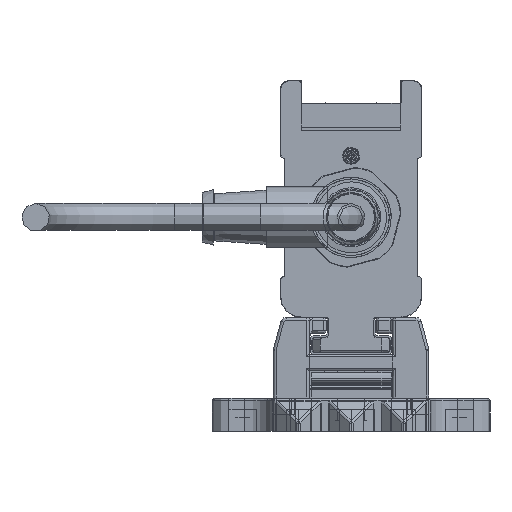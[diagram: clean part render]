
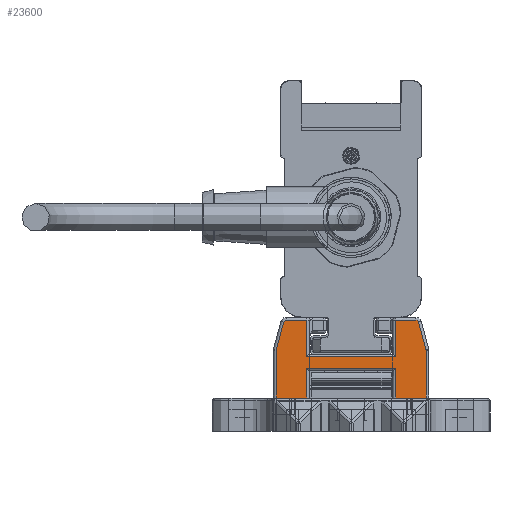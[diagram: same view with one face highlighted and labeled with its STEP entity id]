
A CAD part, left-side view. The second image highlights one B-rep face of the part: STEP entity #23600.
In plain terms, the highlighted planar face has unit normal (-1, 0, 0).
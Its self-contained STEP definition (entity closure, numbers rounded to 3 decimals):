
#23600=ADVANCED_FACE('', (#23610), #23620, .T.);
#189050=AXIS2_PLACEMENT_3D('Ax2Pl3d', #189060, #189070, #189080);
#189290=AXIS2_PLACEMENT_3D('Ax2Pl3d', #189300, #189310, #189320);
#194170=AXIS2_PLACEMENT_3D('Ax2Pl3d', #194180, #194190, #194200);
#199250=AXIS2_PLACEMENT_3D('Ax2Pl3d', #199260, #199270, #199280);
#208930=AXIS2_PLACEMENT_3D('Ax2Pl3d', #208940, #208950, #208960);
#844600=CARTESIAN_POINT('', (-747.669,-6086.345,
331.37));
#189060=CARTESIAN_POINT('HicPkt', (-747.669,-6085.379,
331.111));
#844610=CARTESIAN_POINT('', (-747.669,-6086.379,331.111)
);
#844620=CARTESIAN_POINT('', (-747.669,-6085.037,
336.255));
#844640=CARTESIAN_POINT('', (-747.669,-6085.037,
336.255));
#844670=CARTESIAN_POINT('', (-747.669,-6084.554,
336.625));
#189300=CARTESIAN_POINT('HicPkt', (-747.669,-6084.554,
336.125));
#844890=CARTESIAN_POINT('', (-747.669,-6086.379,322.625)
);
#844900=CARTESIAN_POINT('', (-747.669,-6080.881,322.625)
);
#844910=CARTESIAN_POINT('', (-747.669,-6080.881,322.625)
);
#844990=CARTESIAN_POINT('', (-747.669,-6064.881,322.625)
);
#845000=CARTESIAN_POINT('', (-747.669,-6059.383,322.625)
);
#845010=CARTESIAN_POINT('', (-747.669,-6059.383,322.625)
);
#194180=CARTESIAN_POINT('HicPkt', (-747.669,-6061.209,
336.125));
#847480=CARTESIAN_POINT('', (-747.669,-6060.726,
336.255));
#847490=CARTESIAN_POINT('', (-747.669,-6061.209,
336.625));
#847500=CARTESIAN_POINT('', (-747.669,-6080.881,
330.025));
#847510=CARTESIAN_POINT('', (-747.669,-6064.881,
330.025));
#847520=CARTESIAN_POINT('', (-747.669,-6080.881,
330.025));
#847680=CARTESIAN_POINT('', (-747.669,-6080.881,
328.005));
#847690=CARTESIAN_POINT('', (-747.669,-6064.881,
328.005));
#847700=CARTESIAN_POINT('', (-747.669,-6064.881,
328.005));
#847710=CARTESIAN_POINT('', (-747.669,-6080.881,
328.005));
#847730=CARTESIAN_POINT('', (-747.669,-6064.881,322.625)
);
#847740=CARTESIAN_POINT('', (-747.669,-6064.881,
330.025));
#847750=CARTESIAN_POINT('', (-747.669,-6064.881,
336.625));
#848600=CARTESIAN_POINT('', (-747.669,-6064.881,
336.625));
#848610=CARTESIAN_POINT('', (-747.669,-6060.726,
336.255));
#848620=CARTESIAN_POINT('', (-747.669,-6059.417,
331.37));
#848810=CARTESIAN_POINT('', (-747.669,-6059.383,331.111)
);
#848820=CARTESIAN_POINT('', (-747.669,-6059.383,331.111)
);
#199260=CARTESIAN_POINT('HicPkt', (-747.669,-6060.383,
331.111));
#849630=CARTESIAN_POINT('', (-747.669,-6086.379,331.111)
);
#208940=CARTESIAN_POINT('HicPkt', (-747.669,-6084.554,
336.625));
#851430=CARTESIAN_POINT('', (-747.669,-6080.881,
336.625));
#851440=CARTESIAN_POINT('', (-747.669,-6080.881,
336.625));
#851450=CARTESIAN_POINT('', (-747.669,-6080.881,
336.625));
#981330=CIRCLE('Circle', #189050, 1.);
#981370=CIRCLE('Circle', #189290, 0.5);
#981950=CIRCLE('Circle', #194170, 0.5);
#982480=CIRCLE('Circle', #199250, 1.);
#189070=DIRECTION('Axis', (-1.,0.,
0.));
#189080=DIRECTION('RefDirection', (0.,
0.,-1.));
#1367870=DIRECTION('', (0.,0.259,
0.966));
#189310=DIRECTION('Axis', (-1.,0.,
0.));
#189320=DIRECTION('RefDirection', (0.,
0.,-1.));
#1367980=DIRECTION('', (0.,1.,0.));
#1368020=DIRECTION('', (0.,1.,0.));
#194190=DIRECTION('Axis', (1.,0.,
0.));
#194200=DIRECTION('RefDirection', (0.,
0.,-1.));
#1369210=DIRECTION('', (0.,-1.,0.));
#1369310=DIRECTION('', (0.,1.,0.));
#1369320=DIRECTION('', (0.,0.,1.));
#1369340=DIRECTION('', (0.,0.,-1.));
#1369350=DIRECTION('', (0.,0.,-1.));
#1369780=DIRECTION('', (0.,-1.,0.))
;
#1369790=DIRECTION('', (0.,-0.259,0.966));
#1369880=DIRECTION('', (0.,0.,1.));
#199270=DIRECTION('Axis', (1.,0.,
0.));
#199280=DIRECTION('RefDirection', (0.,
0.,-1.));
#1370250=DIRECTION('', (0.,0.,1.));
#208950=DIRECTION('Axis', (-1.,0.,
0.));
#208960=DIRECTION('RefDirection', (0.,
0.,-1.));
#1371090=DIRECTION('', (0.,1.,0.));
#1371100=DIRECTION('', (0.,0.,1.));
#1456860=EDGE_CURVE('', #1456870, #1456850, #981330, .T.);
#1456920=EDGE_CURVE('', #1456850, #1456900, #1456930, .T.);
#1456990=EDGE_CURVE('', #1456900, #1456980, #981370, .T.);
#1457440=EDGE_CURVE('', #1457430, #1457450, #1457460, .T.);
#1457600=EDGE_CURVE('', #1457590, #1457610, #1457620, .T.);
#1461960=EDGE_CURVE('', #1461970, #1461980, #981950, .T.);
#1462010=EDGE_CURVE('', #1462020, #1462030, #1462040, .T.);
#1462380=EDGE_CURVE('', #1462360, #1462390, #1462400, .T.);
#1462430=EDGE_CURVE('', #1457450, #1462360, #1462440, .T.);
#1462470=EDGE_CURVE('', #1462390, #1457590, #1462480, .T.);
#1462490=EDGE_CURVE('', #1462500, #1462020, #1462510, .T.);
#1464330=EDGE_CURVE('', #1461980, #1462500, #1464340, .T.);
#1464400=EDGE_CURVE('', #1464410, #1461970, #1464420, .T.);
#1464840=EDGE_CURVE('', #1457610, #1464850, #1464860, .T.);
#1464880=EDGE_CURVE('', #1464850, #1464410, #982480, .T.);
#1466590=EDGE_CURVE('', #1457430, #1456870, #1466600, .T.);
#1470400=EDGE_CURVE('', #1456980, #1470410, #1470420, .T.);
#1470430=EDGE_CURVE('', #1462030, #1470410, #1470440, .T.);
#1750440=EDGE_LOOP('Edge_loop', (#1750450,#1750460,#1750470,#1750480,
#1750490,#1750500,#1750510,#1750520,#1750530,#1750540,#1750550,
#1750560,#1750570,#1750580,#1750590,#1750600,#1750610,#1750620));
#23610=FACE_OUTER_BOUND('Face_outer_bound', #1750440, .T.);
#1456930=LINE('Line', #844640, #2017940);
#1457460=LINE('Line', #844900, #2018050);
#1457620=LINE('Line', #845000, #2018090);
#1462040=LINE('Line', #847500, #2019280);
#1462400=LINE('Line', #847690, #2019380);
#1462440=LINE('Line', #847710, #2019390);
#1462480=LINE('Line', #847730, #2019410);
#1462510=LINE('Line', #847740, #2019420);
#1464340=LINE('Line', #848600, #2019850);
#1464420=LINE('Line', #848610, #2019860);
#1464860=LINE('Line', #848810, #2019950);
#1466600=LINE('Line', #849630, #2020320);
#1470420=LINE('Line', #851430, #2021160);
#1470440=LINE('Line', #851450, #2021170);
#1750450=ORIENTED_EDGE('', *, *, #1470400, .T.);
#1750460=ORIENTED_EDGE('', *, *, #1470430, .F.);
#1750470=ORIENTED_EDGE('', *, *, #1462010, .F.);
#1750480=ORIENTED_EDGE('', *, *, #1462490, .F.);
#1750490=ORIENTED_EDGE('', *, *, #1464330, .F.);
#1750500=ORIENTED_EDGE('', *, *, #1461960, .F.);
#1750510=ORIENTED_EDGE('', *, *, #1464400, .F.);
#1750520=ORIENTED_EDGE('', *, *, #1464880, .F.);
#1750530=ORIENTED_EDGE('', *, *, #1464840, .F.);
#1750540=ORIENTED_EDGE('', *, *, #1457600, .F.);
#1750550=ORIENTED_EDGE('', *, *, #1462470, .F.);
#1750560=ORIENTED_EDGE('', *, *, #1462380, .F.);
#1750570=ORIENTED_EDGE('', *, *, #1462430, .F.);
#1750580=ORIENTED_EDGE('', *, *, #1457440, .F.);
#1750590=ORIENTED_EDGE('', *, *, #1466590, .T.);
#1750600=ORIENTED_EDGE('', *, *, #1456860, .T.);
#1750610=ORIENTED_EDGE('', *, *, #1456920, .T.);
#1750620=ORIENTED_EDGE('', *, *, #1456990, .T.);
#23620=PLANE('Plane', #208930);
#2017940=VECTOR('', #1367870, 5.057);
#2018050=VECTOR('', #1367980, 5.498);
#2018090=VECTOR('', #1368020, 5.498);
#2019280=VECTOR('', #1369210, 16.);
#2019380=VECTOR('', #1369310, 16.);
#2019390=VECTOR('', #1369320, 5.38);
#2019410=VECTOR('', #1369340, 5.38);
#2019420=VECTOR('', #1369350, 6.6);
#2019850=VECTOR('', #1369780, 3.672);
#2019860=VECTOR('', #1369790, 5.057);
#2019950=VECTOR('', #1369880, 8.486);
#2020320=VECTOR('', #1370250, 8.486);
#2021160=VECTOR('', #1371090, 3.672);
#2021170=VECTOR('', #1371100, 6.6);
#1456850=VERTEX_POINT('', #844600);
#1456870=VERTEX_POINT('', #844610);
#1456900=VERTEX_POINT('', #844620);
#1456980=VERTEX_POINT('', #844670);
#1457430=VERTEX_POINT('', #844890);
#1457450=VERTEX_POINT('', #844910);
#1457590=VERTEX_POINT('', #844990);
#1457610=VERTEX_POINT('', #845010);
#1461970=VERTEX_POINT('', #847480);
#1461980=VERTEX_POINT('', #847490);
#1462020=VERTEX_POINT('', #847510);
#1462030=VERTEX_POINT('', #847520);
#1462360=VERTEX_POINT('', #847680);
#1462390=VERTEX_POINT('', #847700);
#1462500=VERTEX_POINT('', #847750);
#1464410=VERTEX_POINT('', #848620);
#1464850=VERTEX_POINT('', #848820);
#1470410=VERTEX_POINT('', #851440);
